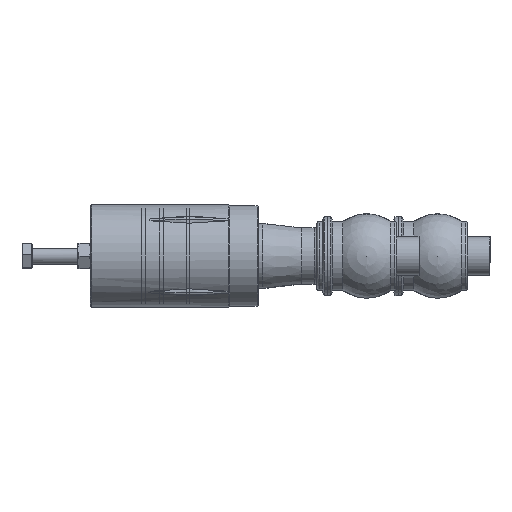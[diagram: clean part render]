
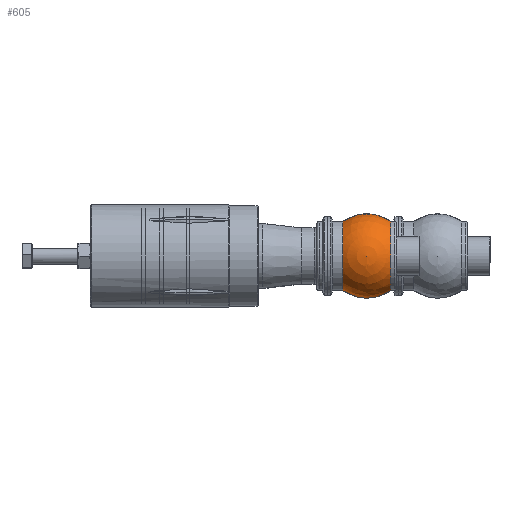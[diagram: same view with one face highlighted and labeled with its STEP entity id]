
A CAD part, left-side view. The second image highlights one B-rep face of the part: STEP entity #605.
In plain terms, the highlighted spherical face has radius 37 mm.
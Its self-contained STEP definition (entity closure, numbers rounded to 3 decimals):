
#465=CARTESIAN_POINT('',(17.0,45.5,32.863));
#466=VERTEX_POINT('',#465);
#467=CARTESIAN_POINT('',(0.0,45.5,32.863));
#468=DIRECTION('',(0.0,0.0,-1.0));
#469=DIRECTION('',(-1.0,0.0,0.0));
#470=AXIS2_PLACEMENT_3D('',#467,#468,#469);
#471=CIRCLE('',#470,17.0);
#472=EDGE_CURVE('',#466,#466,#471,.T.);
#568=CARTESIAN_POINT('',(30.5,24.554,0.0));
#569=VERTEX_POINT('',#568);
#570=CARTESIAN_POINT('',(0.0,24.554,0.0));
#571=DIRECTION('',(0.0,1.0,0.0));
#572=DIRECTION('',(1.0,0.0,0.0));
#573=AXIS2_PLACEMENT_3D('',#570,#571,#572);
#574=CIRCLE('',#573,30.5);
#575=EDGE_CURVE('',#569,#569,#574,.T.);
#583=CARTESIAN_POINT('',(0.0,45.5,0.0));
#584=DIRECTION('',(0.0,0.0,1.0));
#585=DIRECTION('',(1.0,0.0,0.0));
#586=AXIS2_PLACEMENT_3D('',#583,#584,#585);
#587=SPHERICAL_SURFACE('',#586,37.0);
#588=ORIENTED_EDGE('',*,*,#472,.T.);
#589=EDGE_LOOP('',(#588));
#590=FACE_OUTER_BOUND('',#589,.T.);
#591=ORIENTED_EDGE('',*,*,#575,.T.);
#592=EDGE_LOOP('',(#591));
#593=FACE_BOUND('',#592,.T.);
#594=CARTESIAN_POINT('',(30.5,66.446,0.0));
#595=VERTEX_POINT('',#594);
#596=CARTESIAN_POINT('',(0.0,66.446,0.0));
#597=DIRECTION('',(0.0,1.0,0.0));
#598=DIRECTION('',(1.0,0.0,0.0));
#599=AXIS2_PLACEMENT_3D('',#596,#597,#598);
#600=CIRCLE('',#599,30.5);
#601=EDGE_CURVE('',#595,#595,#600,.T.);
#602=ORIENTED_EDGE('',*,*,#601,.F.);
#603=EDGE_LOOP('',(#602));
#604=FACE_BOUND('',#603,.T.);
#605=ADVANCED_FACE('',(#590,#593,#604),#587,.T.);
